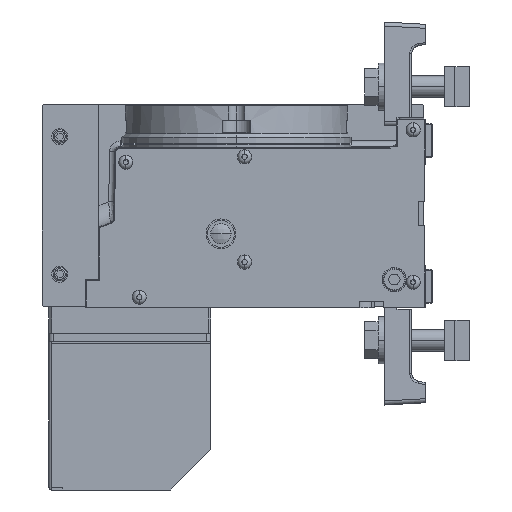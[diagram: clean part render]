
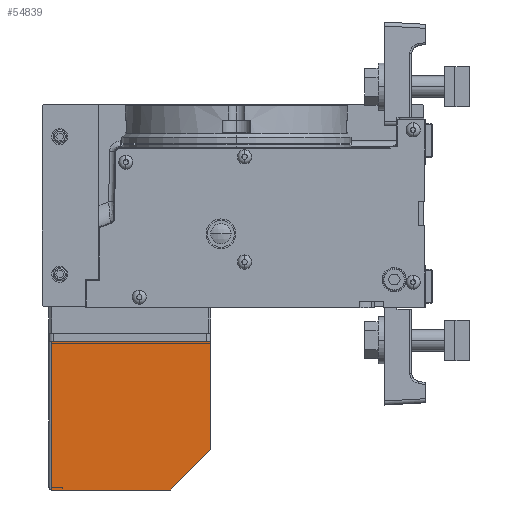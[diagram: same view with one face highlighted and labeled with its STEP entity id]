
A CAD part, left-side view. The second image highlights one B-rep face of the part: STEP entity #54839.
In plain terms, the highlighted planar face has unit normal (-1, 0, 0) as drawn and (1, 0, 0) by its records, which use the part's own axes.
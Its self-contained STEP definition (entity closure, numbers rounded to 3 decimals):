
#1311 = DIRECTION ( 'NONE',  ( 0., 1., 0. ) ) ;
#6494 = DIRECTION ( 'NONE',  ( -1., 0., 0. ) ) ;
#7565 = LINE ( 'NONE', #40295, #69467 ) ;
#15303 = PLANE ( 'NONE',  #73493 ) ;
#17085 = DIRECTION ( 'NONE',  ( 0., 1., 0. ) ) ;
#19973 = VECTOR ( 'NONE', #17085, 1000. ) ;
#20186 = VERTEX_POINT ( 'NONE', #57762 ) ;
#21759 = VECTOR ( 'NONE', #80469, 1000. ) ;
#23329 = CARTESIAN_POINT ( 'NONE',  ( 77.2, 70.058, 1.6 ) ) ;
#23575 = FACE_OUTER_BOUND ( 'NONE', #85083, .T. ) ;
#29828 = EDGE_CURVE ( 'NONE', #98214, #20186, #7565, .T. ) ;
#31867 = DIRECTION ( 'NONE',  ( 0., 0., -1. ) ) ;
#32043 = DIRECTION ( 'NONE',  ( 0., 0.707, 0.707 ) ) ;
#35467 = VECTOR ( 'NONE', #32043, 1000. ) ;
#40218 = CARTESIAN_POINT ( 'NONE',  ( 77.2, 72.058, 1.6 ) ) ;
#40295 = CARTESIAN_POINT ( 'NONE',  ( 77.2, -47.942, 110. ) ) ;
#40706 = EDGE_CURVE ( 'NONE', #66856, #60940, #56593, .T. ) ;
#44388 = ORIENTED_EDGE ( 'NONE', *, *, #63772, .T. ) ;
#51122 = VERTEX_POINT ( 'NONE', #80302 ) ;
#54839 = ADVANCED_FACE ( 'NONE', ( #23575 ), #15303, .F. ) ;
#55296 = DIRECTION ( 'NONE',  ( 0., -1., 0. ) ) ;
#56593 = LINE ( 'NONE', #88184, #19973 ) ;
#57762 = CARTESIAN_POINT ( 'NONE',  ( 77.2, 70.058, 110. ) ) ;
#60940 = VERTEX_POINT ( 'NONE', #70185 ) ;
#62474 = ORIENTED_EDGE ( 'NONE', *, *, #29828, .F. ) ;
#63772 = EDGE_CURVE ( 'NONE', #51122, #66856, #95153, .T. ) ;
#63833 = ORIENTED_EDGE ( 'NONE', *, *, #77207, .F. ) ;
#64575 = CARTESIAN_POINT ( 'NONE',  ( 77.2, -47.942, 1.6 ) ) ;
#64903 = ORIENTED_EDGE ( 'NONE', *, *, #40706, .T. ) ;
#66856 = VERTEX_POINT ( 'NONE', #98113 ) ;
#69467 = VECTOR ( 'NONE', #1311, 1000. ) ;
#70185 = CARTESIAN_POINT ( 'NONE',  ( 77.2, 70.058, 0. ) ) ;
#70483 = LINE ( 'NONE', #78285, #35467 ) ;
#73493 = AXIS2_PLACEMENT_3D ( 'NONE', #40218, #6494, #55296 ) ;
#77207 = EDGE_CURVE ( 'NONE', #51122, #98214, #70483, .T. ) ;
#77344 = ORIENTED_EDGE ( 'NONE', *, *, #84934, .T. ) ;
#78285 = CARTESIAN_POINT ( 'NONE',  ( 77.2, -17.942, 110. ) ) ;
#80302 = CARTESIAN_POINT ( 'NONE',  ( 77.2, -47.942, 80. ) ) ;
#80469 = DIRECTION ( 'NONE',  ( 0., 0., 1. ) ) ;
#82369 = CARTESIAN_POINT ( 'NONE',  ( 77.2, -17.942, 110. ) ) ;
#84934 = EDGE_CURVE ( 'NONE', #60940, #20186, #102734, .T. ) ;
#85083 = EDGE_LOOP ( 'NONE', ( #64903, #77344, #62474, #63833, #44388 ) ) ;
#88184 = CARTESIAN_POINT ( 'NONE',  ( 77.2, 72.058, 0. ) ) ;
#90857 = VECTOR ( 'NONE', #31867, 1000. ) ;
#95153 = LINE ( 'NONE', #64575, #90857 ) ;
#98113 = CARTESIAN_POINT ( 'NONE',  ( 77.2, -47.942, 0. ) ) ;
#98214 = VERTEX_POINT ( 'NONE', #82369 ) ;
#102734 = LINE ( 'NONE', #23329, #21759 ) ;
